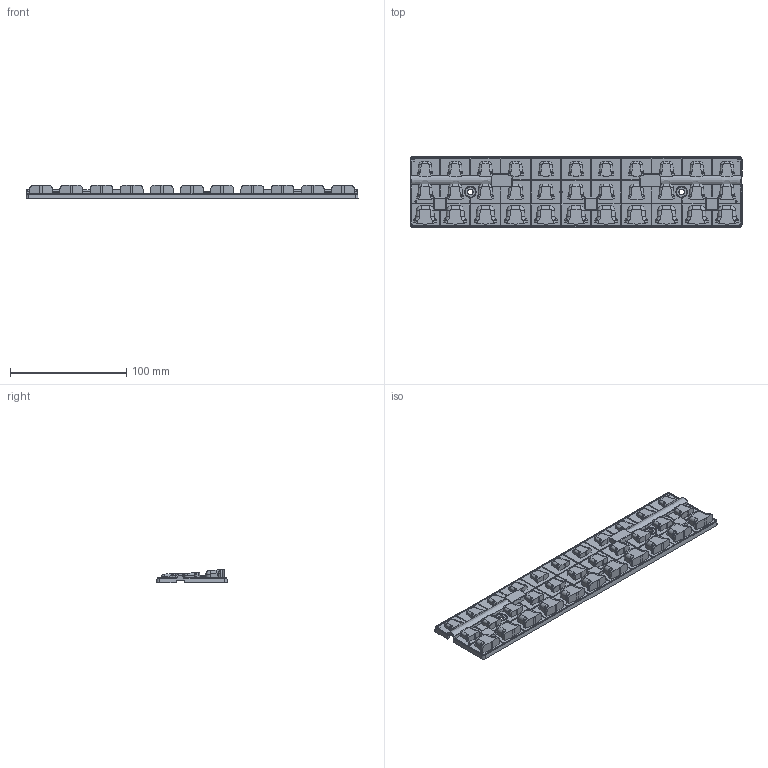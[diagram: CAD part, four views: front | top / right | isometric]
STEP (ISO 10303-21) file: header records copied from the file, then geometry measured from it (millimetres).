
FILE_DESCRIPTION(('CATIA V5 STEP Exchange'),'2;1');
FILE_NAME('Z:\Engineering\Design Library\Florence\1-Sessions\20131004_ZT25\20150923_FLORENCE-ZT25-S\F15244_FLORENCE-ZT25-S_MechanicalModel.stp','2017-07-13T09:35:15+00:00',('none'),('none'),'CATIA Version 5-6 Release 2013 SP4','CATIA V5 STEP AP203','none');
FILE_SCHEMA(('CONFIG_CONTROL_DESIGN'));
Products named in the file (1): F15244
Bounding box: 286 x 61 x 11.4 mm (x, y, z)
Volume: 63988.5 mm3; surface area: 51406.2 mm2
Topology: 1 solids, 3 shells, 3092 faces, 8010 edges, 4844 vertices
Faces by surface type: bspline 1231, plane 782, cylinder 770, torus 104, sphere 92, cone 85, extrusion 17, revolution 11
Entity records: 170609 total; most frequent: CARTESIAN_POINT 111597, ORIENTED_EDGE 15652, EDGE_CURVE 7826, DIRECTION 6174, VERTEX_POINT 4843, B_SPLINE_CURVE_WITH_KNOTS 4407, EDGE_LOOP 3201, ADVANCED_FACE 3092
